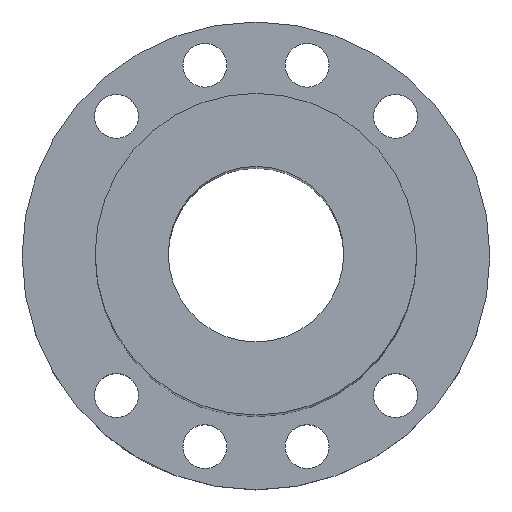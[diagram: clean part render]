
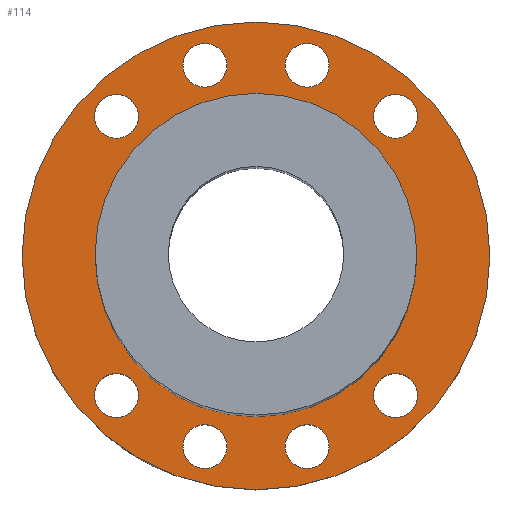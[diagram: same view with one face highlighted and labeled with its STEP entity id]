
A CAD part, top view. The second image highlights one B-rep face of the part: STEP entity #114.
In plain terms, the highlighted planar face has unit normal (0, 0, 1).
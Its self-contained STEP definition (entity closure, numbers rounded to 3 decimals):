
#99=PLANE('',#401);
#114=ADVANCED_FACE('',(#169,#170,#171,#172,#173,#174,#175,#176,#177,#178),
#99,.T.);
#169=FACE_BOUND('',#221,.T.);
#170=FACE_BOUND('',#222,.T.);
#171=FACE_BOUND('',#223,.T.);
#172=FACE_BOUND('',#224,.T.);
#173=FACE_BOUND('',#225,.T.);
#174=FACE_BOUND('',#226,.T.);
#175=FACE_BOUND('',#227,.T.);
#176=FACE_BOUND('',#228,.T.);
#177=FACE_BOUND('',#229,.T.);
#178=FACE_BOUND('',#230,.T.);
#221=EDGE_LOOP('',(#273));
#222=EDGE_LOOP('',(#274));
#223=EDGE_LOOP('',(#275));
#224=EDGE_LOOP('',(#276));
#225=EDGE_LOOP('',(#277));
#226=EDGE_LOOP('',(#278));
#227=EDGE_LOOP('',(#279));
#228=EDGE_LOOP('',(#280));
#229=EDGE_LOOP('',(#281));
#230=EDGE_LOOP('',(#282));
#273=ORIENTED_EDGE('',*,*,#316,.T.);
#274=ORIENTED_EDGE('',*,*,#337,.T.);
#275=ORIENTED_EDGE('',*,*,#318,.T.);
#276=ORIENTED_EDGE('',*,*,#336,.F.);
#277=ORIENTED_EDGE('',*,*,#335,.F.);
#278=ORIENTED_EDGE('',*,*,#334,.F.);
#279=ORIENTED_EDGE('',*,*,#333,.T.);
#280=ORIENTED_EDGE('',*,*,#332,.T.);
#281=ORIENTED_EDGE('',*,*,#331,.F.);
#282=ORIENTED_EDGE('',*,*,#338,.T.);
#290=VERTEX_POINT('',#495);
#292=VERTEX_POINT('',#557);
#305=VERTEX_POINT('',#644);
#306=VERTEX_POINT('',#647);
#307=VERTEX_POINT('',#650);
#308=VERTEX_POINT('',#653);
#309=VERTEX_POINT('',#656);
#310=VERTEX_POINT('',#659);
#311=VERTEX_POINT('',#662);
#312=VERTEX_POINT('',#665);
#316=EDGE_CURVE('',#290,#290,#342,.T.);
#318=EDGE_CURVE('',#292,#292,#343,.T.);
#331=EDGE_CURVE('',#305,#305,#355,.T.);
#332=EDGE_CURVE('',#306,#306,#356,.T.);
#333=EDGE_CURVE('',#307,#307,#357,.T.);
#334=EDGE_CURVE('',#308,#308,#358,.T.);
#335=EDGE_CURVE('',#309,#309,#359,.T.);
#336=EDGE_CURVE('',#310,#310,#360,.T.);
#337=EDGE_CURVE('',#311,#311,#361,.T.);
#338=EDGE_CURVE('',#312,#312,#362,.T.);
#342=CIRCLE('',#367,48.);
#343=CIRCLE('',#369,33.);
#355=CIRCLE('',#385,4.5);
#356=CIRCLE('',#387,4.5);
#357=CIRCLE('',#389,4.5);
#358=CIRCLE('',#391,4.5);
#359=CIRCLE('',#393,4.5);
#360=CIRCLE('',#395,4.5);
#361=CIRCLE('',#397,4.5);
#362=CIRCLE('',#399,4.5);
#367=AXIS2_PLACEMENT_3D('',#494,#411,#412);
#369=AXIS2_PLACEMENT_3D('',#556,#415,#416);
#385=AXIS2_PLACEMENT_3D('',#643,#447,#448);
#387=AXIS2_PLACEMENT_3D('',#646,#451,#452);
#389=AXIS2_PLACEMENT_3D('',#649,#455,#456);
#391=AXIS2_PLACEMENT_3D('',#652,#459,#460);
#393=AXIS2_PLACEMENT_3D('',#655,#463,#464);
#395=AXIS2_PLACEMENT_3D('',#658,#467,#468);
#397=AXIS2_PLACEMENT_3D('',#661,#471,#472);
#399=AXIS2_PLACEMENT_3D('',#664,#475,#476);
#401=AXIS2_PLACEMENT_3D('',#667,#479,#480);
#411=DIRECTION('',(0.,0.,1.));
#412=DIRECTION('',(1.,0.,0.));
#415=DIRECTION('',(0.,0.,-1.));
#416=DIRECTION('',(1.,0.,0.));
#447=DIRECTION('',(0.,0.,1.));
#448=DIRECTION('',(1.,0.,0.));
#451=DIRECTION('',(0.,0.,-1.));
#452=DIRECTION('',(1.,0.,0.));
#455=DIRECTION('',(0.,0.,-1.));
#456=DIRECTION('',(-1.,0.,0.));
#459=DIRECTION('',(0.,0.,1.));
#460=DIRECTION('',(1.,0.,0.));
#463=DIRECTION('',(0.,0.,1.));
#464=DIRECTION('',(-1.,0.,0.));
#467=DIRECTION('',(0.,0.,1.));
#468=DIRECTION('',(-1.,0.,0.));
#471=DIRECTION('',(0.,0.,-1.));
#472=DIRECTION('',(-1.,0.,0.));
#475=DIRECTION('',(0.,0.,-1.));
#476=DIRECTION('',(1.,0.,0.));
#479=DIRECTION('',(0.,0.,1.));
#480=DIRECTION('',(1.,0.,0.));
#494=CARTESIAN_POINT('',(0.,0.,14.));
#495=CARTESIAN_POINT('',(48.,0.,14.));
#556=CARTESIAN_POINT('',(0.,0.,14.));
#557=CARTESIAN_POINT('',(33.,0.,14.));
#643=CARTESIAN_POINT('',(-28.638,28.638,14.));
#644=CARTESIAN_POINT('',(-24.138,28.638,14.));
#646=CARTESIAN_POINT('',(-28.638,-28.638,14.));
#647=CARTESIAN_POINT('',(-24.138,-28.638,14.));
#649=CARTESIAN_POINT('',(28.638,28.638,14.));
#650=CARTESIAN_POINT('',(24.138,28.638,14.));
#652=CARTESIAN_POINT('',(-10.482,39.12,14.));
#653=CARTESIAN_POINT('',(-5.982,39.12,14.));
#655=CARTESIAN_POINT('',(28.638,-28.638,14.));
#656=CARTESIAN_POINT('',(24.138,-28.638,14.));
#658=CARTESIAN_POINT('',(10.482,-39.12,14.));
#659=CARTESIAN_POINT('',(5.982,-39.12,14.));
#661=CARTESIAN_POINT('',(10.482,39.12,14.));
#662=CARTESIAN_POINT('',(5.982,39.12,14.));
#664=CARTESIAN_POINT('',(-10.482,-39.12,14.));
#665=CARTESIAN_POINT('',(-5.982,-39.12,14.));
#667=CARTESIAN_POINT('',(5.241,19.56,14.));
